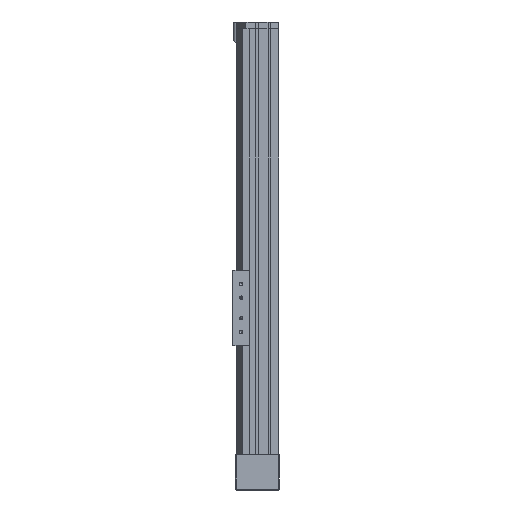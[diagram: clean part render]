
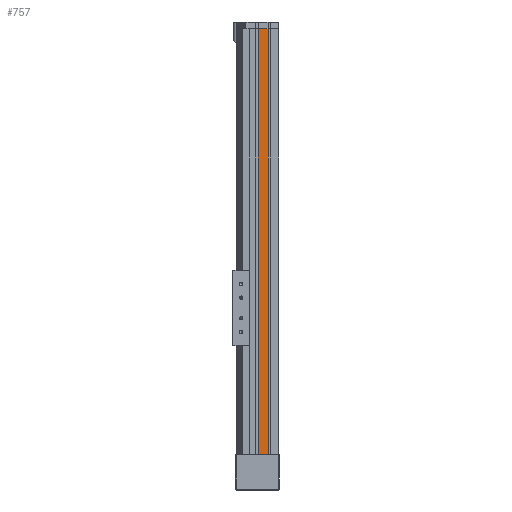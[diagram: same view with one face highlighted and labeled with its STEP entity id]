
A CAD part, left-side view. The second image highlights one B-rep face of the part: STEP entity #757.
In plain terms, the highlighted planar face has unit normal (-1, 0, 0).
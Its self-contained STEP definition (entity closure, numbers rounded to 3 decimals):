
#727 = VERTEX_POINT ( 'NONE', #7153 ) ;
#734 = VERTEX_POINT ( 'NONE', #7155 ) ;
#756 = EDGE_CURVE ( 'NONE', #727, #5848, #7179, .T. ) ;
#757 = ADVANCED_FACE ( 'NONE', ( #7169 ), #7187, .F. ) ;
#759 = ORIENTED_EDGE ( 'NONE', *, *, #832, .T. ) ;
#760 = ORIENTED_EDGE ( 'NONE', *, *, #5976, .T. ) ;
#776 = EDGE_LOOP ( 'NONE', ( #759, #831, #816, #760 ) ) ;
#816 = ORIENTED_EDGE ( 'NONE', *, *, #756, .F. ) ;
#831 = ORIENTED_EDGE ( 'NONE', *, *, #5830, .F. ) ;
#832 = EDGE_CURVE ( 'NONE', #734, #5847, #7305, .T. ) ;
#5830 = EDGE_CURVE ( 'NONE', #5848, #5847, #22155, .T. ) ;
#5847 = VERTEX_POINT ( 'NONE', #22191 ) ;
#5848 = VERTEX_POINT ( 'NONE', #22143 ) ;
#5976 = EDGE_CURVE ( 'NONE', #727, #734, #22410, .T. ) ;
#7153 = CARTESIAN_POINT ( 'NONE',  ( 0., 30., 0. ) ) ;
#7155 = CARTESIAN_POINT ( 'NONE',  ( 0., 15.5, 0. ) ) ;
#7163 = DIRECTION ( 'NONE',  ( 1., 0., 0. ) ) ;
#7165 = DIRECTION ( 'NONE',  ( 0., 0., 1. ) ) ;
#7166 = VECTOR ( 'NONE', #7165, 1000. ) ;
#7167 = CARTESIAN_POINT ( 'NONE',  ( 0., 30., 0. ) ) ;
#7169 = FACE_OUTER_BOUND ( 'NONE', #776, .T. ) ;
#7170 = CARTESIAN_POINT ( 'NONE',  ( 0., 0., 620. ) ) ;
#7179 = LINE ( 'NONE', #7167, #7166 ) ;
#7180 = AXIS2_PLACEMENT_3D ( 'NONE', #7170, #7163, #7232 ) ;
#7187 = PLANE ( 'NONE',  #7180 ) ;
#7232 = DIRECTION ( 'NONE',  ( 0., 0., -1. ) ) ;
#7305 = LINE ( 'NONE', #7360, #7359 ) ;
#7358 = DIRECTION ( 'NONE',  ( 0., 0., 1. ) ) ;
#7359 = VECTOR ( 'NONE', #7358, 1000. ) ;
#7360 = CARTESIAN_POINT ( 'NONE',  ( 0., 15.5, 0. ) ) ;
#22143 = CARTESIAN_POINT ( 'NONE',  ( 0., 30., 620. ) ) ;
#22152 = DIRECTION ( 'NONE',  ( 0., -1., 0. ) ) ;
#22153 = VECTOR ( 'NONE', #22152, 1000. ) ;
#22154 = CARTESIAN_POINT ( 'NONE',  ( 0., 0., 620. ) ) ;
#22155 = LINE ( 'NONE', #22154, #22153 ) ;
#22191 = CARTESIAN_POINT ( 'NONE',  ( 0., 15.5, 620. ) ) ;
#22407 = DIRECTION ( 'NONE',  ( 0., -1., 0. ) ) ;
#22408 = VECTOR ( 'NONE', #22407, 1000. ) ;
#22409 = CARTESIAN_POINT ( 'NONE',  ( 0., 0., 0. ) ) ;
#22410 = LINE ( 'NONE', #22409, #22408 ) ;
